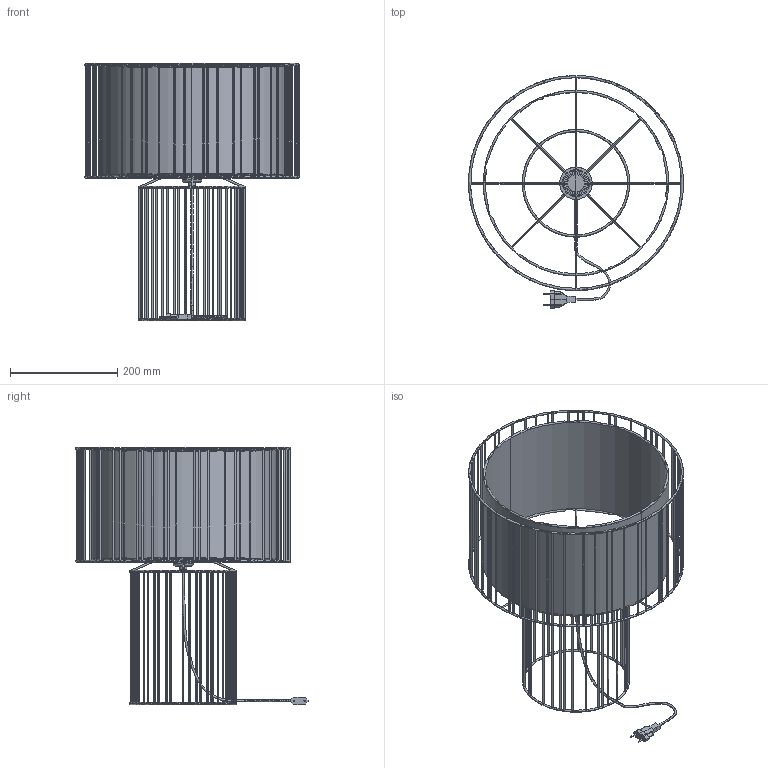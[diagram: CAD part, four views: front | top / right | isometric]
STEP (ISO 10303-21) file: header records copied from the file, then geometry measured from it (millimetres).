
FILE_DESCRIPTION(/* description */ (''),/* implementation_level */ '2;1');
FILE_NAME(/* name */ 'C:\Users\FrancoSartori\Documents\FARO\01_En Proceso\00_LINDA\03_Publicación\29307.stp',/* time_stamp */ '2021-08-17T10:31:19+02:00',/* author */ ('FrancoSartori'),/* organization */ (''),/* preprocessor_version */ 'ST-DEVELOPER v18.1',/* originating_system */ 'AutoCAD Mechanical',/* authorisation */ '');
FILE_SCHEMA (('AUTOMOTIVE_DESIGN { 1 0 10303 214 3 1 1 }'));
Length unit declared in the file: millimetre
Products named in the file (3): Product; 29307_ 29311_ - STR-691199-Export; 29307_ 29311_S - SH-691201-Export
Assembly tree (2 placements, depth 2):
  Product
    29307_ 29311_ - STR-691199-Export
    29307_ 29311_S - SH-691201-Export
Bounding box: 399.87 x 432.77 x 478.78 mm (x, y, z)
Volume: 285395.2 mm3; surface area: 736472.4 mm2
Topology: 10 solids, 14 shells, 470 faces, 1233 edges, 767 vertices
Faces by surface type: cylinder 322, plane 114, torus 22, cone 8, bspline 4
Entity records: 37565 total; most frequent: CARTESIAN_POINT 26412, ORIENTED_EDGE 2450, DIRECTION 1927, EDGE_CURVE 1233, VERTEX_POINT 767, AXIS2_PLACEMENT_3D 733, EDGE_LOOP 648, B_SPLINE_CURVE_WITH_KNOTS 510
